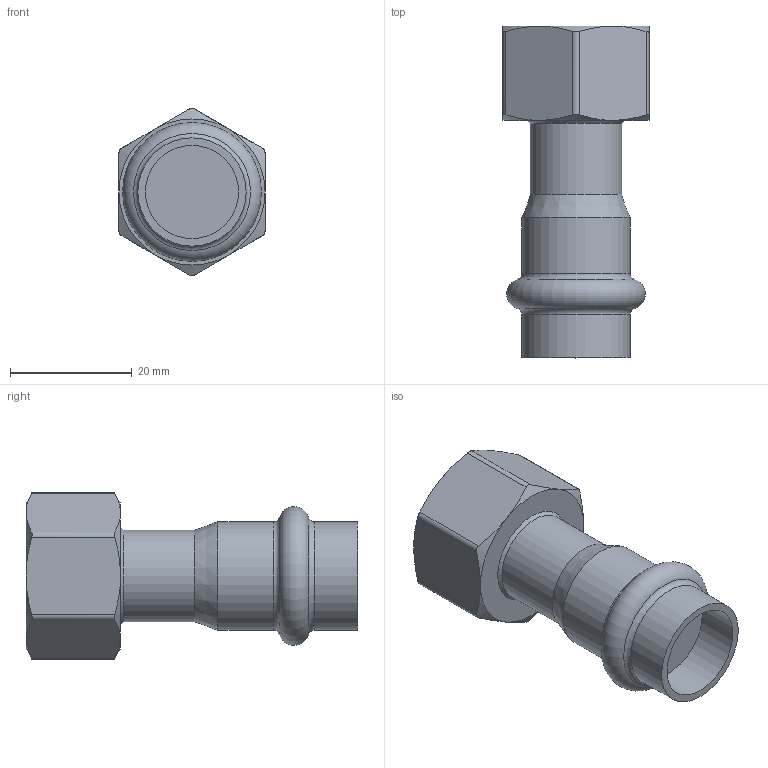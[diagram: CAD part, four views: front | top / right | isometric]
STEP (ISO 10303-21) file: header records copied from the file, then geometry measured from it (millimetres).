
FILE_DESCRIPTION(('STEP AP203'), '1');
FILE_NAME('VTi.908.I.001504', '', ('UNSPECIFIED'), ('UNSPECIFIED'), 'C3D Converter', 'C3D Toolkit', '');
FILE_SCHEMA(('CONFIG_CONTROL_DESIGN'));
Length unit declared in the file: millimetre
Bounding box: 24 x 54.5 x 27.4 mm (x, y, z)
Volume: 13317.9 mm3; surface area: 5357.1 mm2
Topology: 1 solids, 1 shells, 39 faces, 84 edges, 50 vertices
Faces by surface type: cone 14, plane 11, cylinder 11, torus 3
Full cylindrical faces by diameter (mm): 15 x1, 15.3 x1, 17.8 x2, 18.632 x1
Entity records: 1845 total; most frequent: CARTESIAN_POINT 1053, ORIENTED_EDGE 146, DIRECTION 144, EDGE_CURVE 73, AXIS2_PLACEMENT_3D 66, EDGE_LOOP 53, VERTEX_POINT 50, ADVANCED_FACE 39
